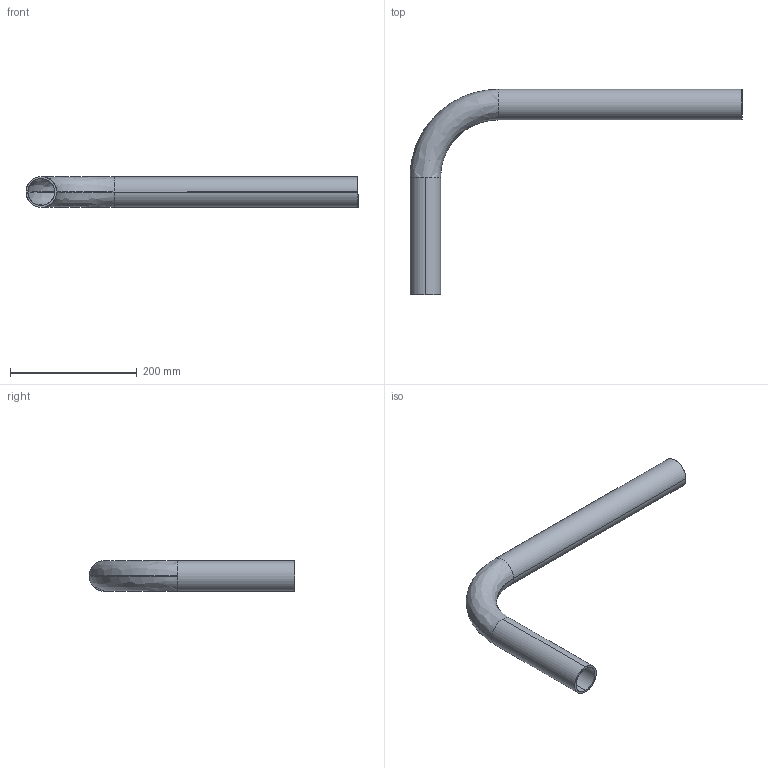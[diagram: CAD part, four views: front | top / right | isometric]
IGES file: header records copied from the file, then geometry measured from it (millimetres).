
Start section: SolidWorks IGES file using analytic representation for surfaces
Global section: file name: Z:\Proje\Kollar\048-Paslanmaz\BÜKÜMLÜ_PROFÝLLER\STEP\TK048.L.0300.0500\TK048.L.0300.0500.IGS; native system: SolidWorks 2022; preprocessor: SolidWorks 2022; author: PC; date: 260730.081826; units: millimetre
Bounding box: 524.15 x 324.15 x 48.3 mm (x, y, z)
Surface area: 214550.2 mm2 (no closed solid volume)
Topology: 0 solids, 0 shells, 14 faces, 312 edges, 312 vertices
Faces by surface type: revolution 8, bspline 6
